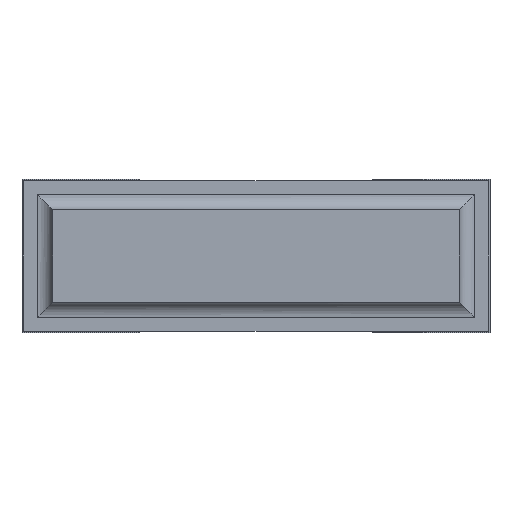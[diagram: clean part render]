
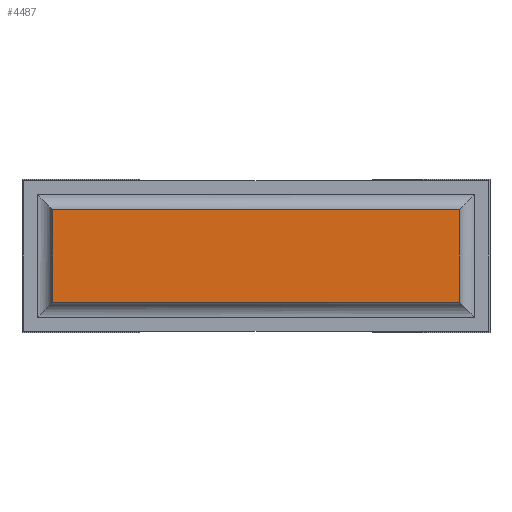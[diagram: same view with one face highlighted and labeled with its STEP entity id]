
A CAD part, front view. The second image highlights one B-rep face of the part: STEP entity #4487.
In plain terms, the highlighted planar face has unit normal (0, -1, 0).
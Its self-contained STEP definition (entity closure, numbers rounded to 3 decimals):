
#168=PLANE('',#4806);
#381=FACE_OUTER_BOUND('',#626,.T.);
#626=EDGE_LOOP('',(#3737,#3738,#3739,#3740));
#1034=LINE('',#6876,#1596);
#1038=LINE('',#6886,#1600);
#1061=LINE('',#6935,#1623);
#1064=LINE('',#6945,#1626);
#1596=VECTOR('',#5583,10.);
#1600=VECTOR('',#5593,10.);
#1623=VECTOR('',#5634,10.);
#1626=VECTOR('',#5649,10.);
#2147=VERTEX_POINT('',#6873);
#2148=VERTEX_POINT('',#6875);
#2151=VERTEX_POINT('',#6885);
#2168=VERTEX_POINT('',#6932);
#2684=EDGE_CURVE('',#2148,#2147,#1034,.T.);
#2689=EDGE_CURVE('',#2151,#2148,#1038,.T.);
#2714=EDGE_CURVE('',#2168,#2151,#1061,.T.);
#2719=EDGE_CURVE('',#2147,#2168,#1064,.T.);
#3737=ORIENTED_EDGE('',*,*,#2684,.T.);
#3738=ORIENTED_EDGE('',*,*,#2719,.T.);
#3739=ORIENTED_EDGE('',*,*,#2714,.T.);
#3740=ORIENTED_EDGE('',*,*,#2689,.T.);
#4487=ADVANCED_FACE('',(#381),#168,.T.);
#4806=AXIS2_PLACEMENT_3D('',#6950,#5655,#5656);
#5583=DIRECTION('',(0.,0.,-1.));
#5593=DIRECTION('',(-1.,0.,0.));
#5634=DIRECTION('',(0.,0.,1.));
#5649=DIRECTION('',(1.,0.,0.));
#5655=DIRECTION('center_axis',(0.,-1.,0.));
#5656=DIRECTION('ref_axis',(0.,0.,-1.));
#6873=CARTESIAN_POINT('',(0.1,0.,0.1));
#6875=CARTESIAN_POINT('',(0.1,0.,0.4));
#6876=CARTESIAN_POINT('',(0.1,0.,0.4));
#6885=CARTESIAN_POINT('',(1.42,0.,0.4));
#6886=CARTESIAN_POINT('',(1.42,0.,0.4));
#6932=CARTESIAN_POINT('',(1.42,0.,0.1));
#6935=CARTESIAN_POINT('',(1.42,0.,0.1));
#6945=CARTESIAN_POINT('',(0.1,0.,0.1));
#6950=CARTESIAN_POINT('Origin',(0.1,0.,0.25));
